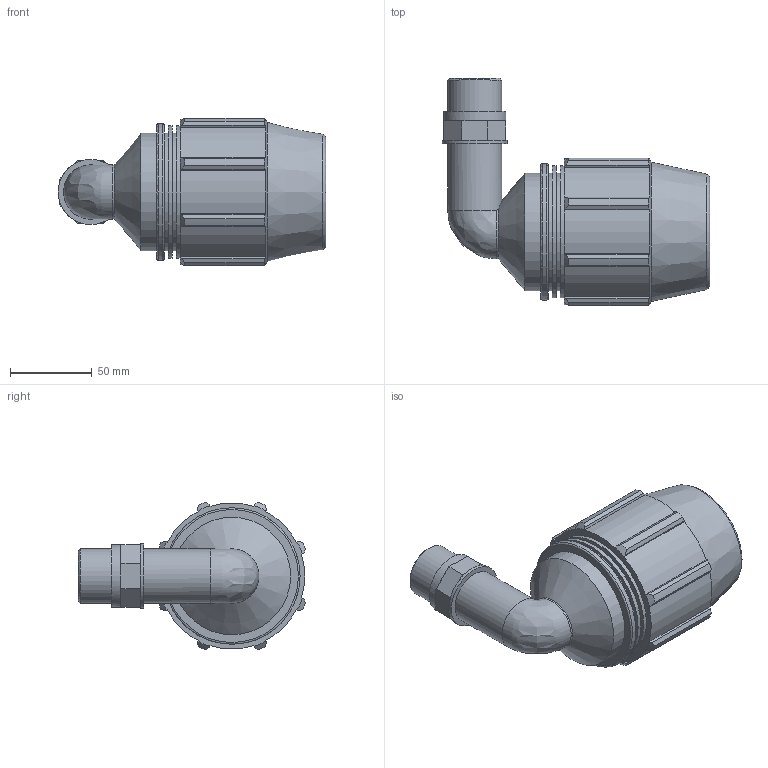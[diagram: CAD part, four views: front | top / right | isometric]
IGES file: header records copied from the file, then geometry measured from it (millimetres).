
Global section: file name: 077700050010_187700050010_0777060500100A.ipt; native system: Autodesk Inventor 2015; preprocessor: unknown; author: KIM; date: 20170622.103108; units: millimetre
Bounding box: 163.95 x 139.16 x 90.33 mm (x, y, z)
Volume: 511945.7 mm3; surface area: 84204 mm2
Topology: 1 solids, 1 shells, 125 faces, 320 edges, 205 vertices
Faces by surface type: plane 76, cylinder 27, cone 12, revolution 9, bspline 1
Full cylindrical faces by diameter (mm): 33.249 x2, 38.236 x1, 39.899 x1, 72 x3, 81.014 x2, 83.52 x1
